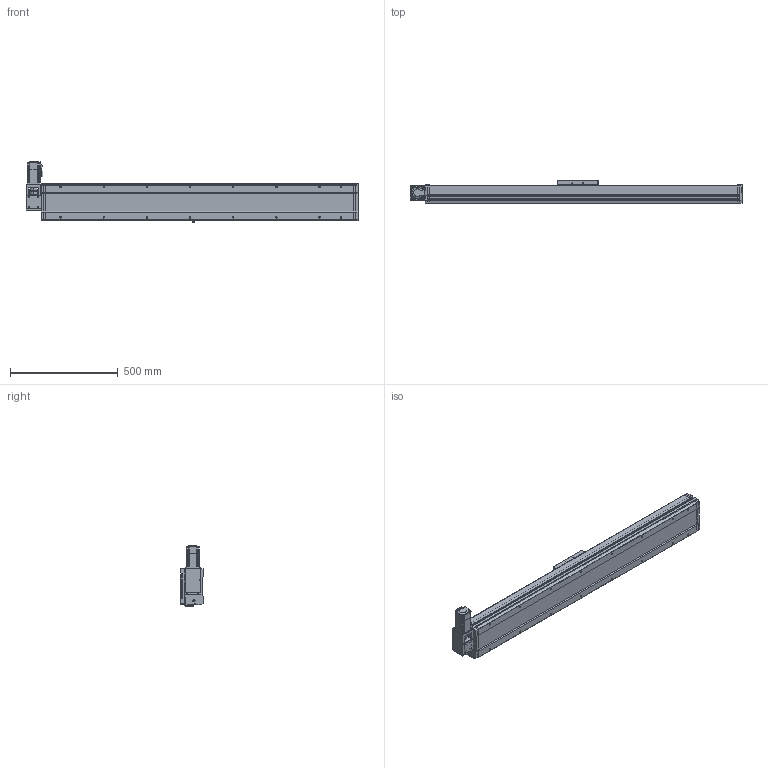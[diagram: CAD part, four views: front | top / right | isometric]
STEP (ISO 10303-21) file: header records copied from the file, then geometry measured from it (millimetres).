
FILE_DESCRIPTION((''),'2;1');
FILE_NAME('170-TZJ3FL-S1150_ASM','2015-12-04T',('lenovo'),(''),'PRO/ENGINEER BY PARAMETRIC TECHNOLOGY CORPORATION, 2010280','PRO/ENGINEER BY PARAMETRIC TECHNOLOGY CORPORATION, 2010280','');
FILE_SCHEMA(('CONFIG_CONTROL_DESIGN'));
Length unit declared in the file: millimetre
Products named in the file (5): 170-TJFL-DZ; 170-HK; 170-HDB-01; 170-TZJ3FL-DJZ; 170-TZJ3FL-S1150_ASM
Assembly tree (4 placements, depth 2):
  170-TZJ3FL-S1150_ASM
    170-TJFL-DZ
    170-HK
    170-HDB-01
    170-TZJ3FL-DJZ
Bounding box: 1539 x 107 x 278.5 mm (x, y, z)
Volume: 11415541.8 mm3; surface area: 1729919.3 mm2
Topology: 6 solids, 30 shells, 1492 faces, 4045 edges, 2697 vertices
Faces by surface type: plane 796, cylinder 555, cone 113, torus 28
Entity records: 47739 total; most frequent: CARTESIAN_POINT 8517, DIRECTION 8388, ORIENTED_EDGE 8090, EDGE_CURVE 4045, AXIS2_PLACEMENT_3D 2884, VERTEX_POINT 2697, VECTOR 2620, LINE 2620
